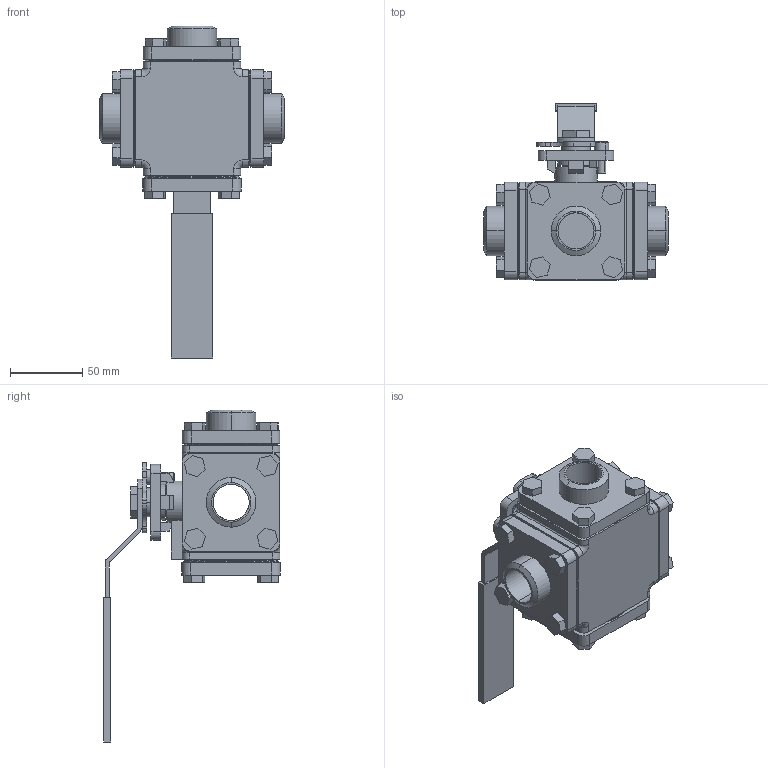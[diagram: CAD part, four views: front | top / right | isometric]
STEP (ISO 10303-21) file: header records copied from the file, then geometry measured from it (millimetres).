
FILE_DESCRIPTION (( 'STEP AP214' ), '1' );
FILE_NAME ('S350D DN25 BW HB.step', '2010-10-22T12:11:27', ( '' ), ( '' ), 'SwSTEP 2.0', 'SolidWorks 2010', '' );
FILE_SCHEMA (( 'AUTOMOTIVE_DESIGN' ));
Length unit declared in the file: millimetre
Products named in the file (7): S350D KK DN25 PN50; S350D Hendel DN20; DIN 912 M6 x 16 --- 16N_DIN 912 M6 x 16 --- 16N; Hexagon Nut ISO 4032 - M6 - D - N_Hexagon Nut ISO 4032 - M6 - D - N; S350D Blindflens DN25; S350D Buttweld DN25; S350D DN25 BW HB
Assembly tree (8 placements, depth 2):
  S350D DN25 BW HB
    DIN 912 M6 x 16 --- 16N_DIN 912 M6 x 16 --- 16N
    S350D KK DN25 PN50
    S350D Buttweld DN25  x3
    S350D Hendel DN20
    S350D Blindflens DN25
    Hexagon Nut ISO 4032 - M6 - D - N_Hexagon Nut ISO 4032 - M6 - D - N
Bounding box: 127.7 x 122.13 x 229.48 mm (x, y, z)
Volume: 600295.9 mm3; surface area: 125638.2 mm2
Topology: 8 solids, 8 shells, 512 faces, 1286 edges, 818 vertices
Faces by surface type: plane 322, cylinder 136, cone 42, torus 12
Entity records: 12781 total; most frequent: CARTESIAN_POINT 2265, DIRECTION 2186, ORIENTED_EDGE 2080, EDGE_CURVE 1040, AXIS2_PLACEMENT_3D 755, VECTOR 676, LINE 676, VERTEX_POINT 658
